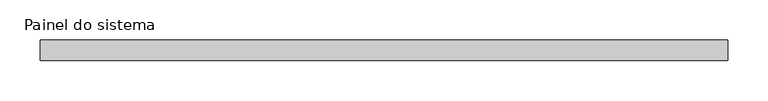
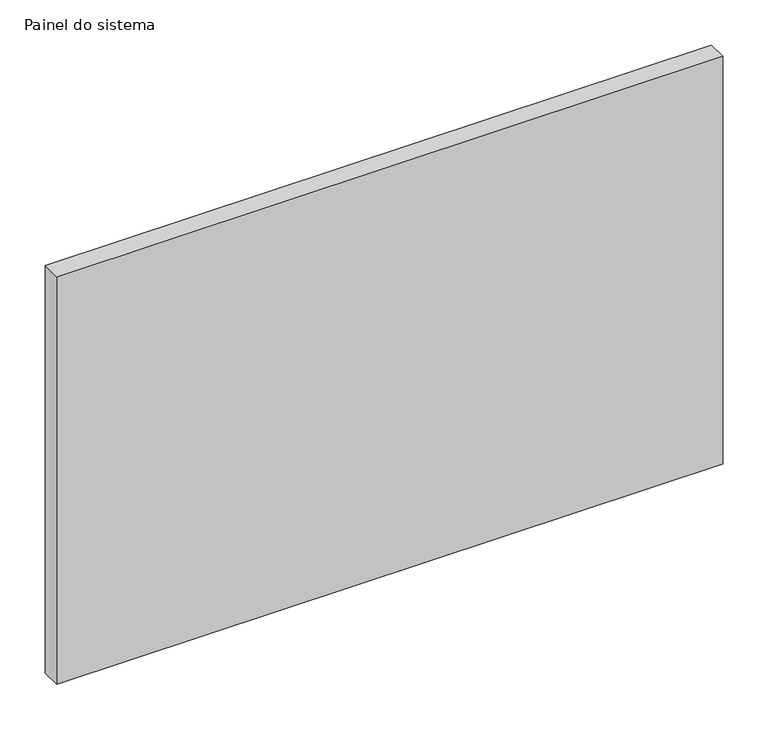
"""IFC4 building model written with IfcOpenShell, lengths in millimetres: plate geometry, Painel do sistema : Envidraçado."""

from ifc_helpers import new_model, si_unit, origin, origin_with_axes, place, context, project, spatial, polyline, outline, extrude, source, transform, mapped, element, save


def painel_do_sistema_ef9887cc(model_context):
    return source(origin(), model_context, "Body", "SweptSolid", [
        extrude(outline(polyline([(425.0, 24.5), (-425.0, 24.5), (-425.0, 49.5), (425.0, 49.5), (425.0, 24.5)])), origin_with_axes(), (0.0, 0.0, 1.0), 550.0),
    ])


if __name__ == "__main__":
    model = new_model("IFC4")
    model_context = context("Model", 3, world=origin())
    ifc_project = project(units=[si_unit("LENGTHUNIT", "METRE", prefix="MILLI")], contexts=[model_context])
    site = spatial("IfcSite", under=ifc_project)
    building = spatial("IfcBuilding", under=site)
    placement = place(None, origin())
    painel_do_sistema_shape = painel_do_sistema_ef9887cc(model_context)
    element("IfcPlate", 1, ObjectType="Painel do sistema : Envidraçado", at=placement, inside=building, context=model_context, shape_type="MappedRepresentation", body=[
        mapped(painel_do_sistema_shape, transform((0.0, 0.0, 0.0), x_axis=(1.0, 0.0, 0.0), y_axis=(0.0, 1.0, 0.0), z_axis=(0.0, 0.0, 1.0))),
    ])
    save(model, "model.ifc")
